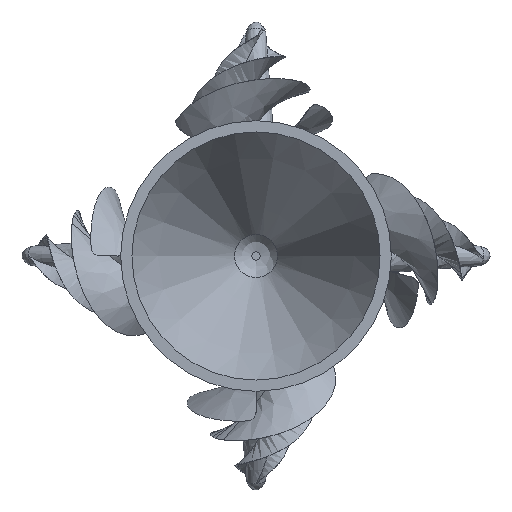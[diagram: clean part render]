
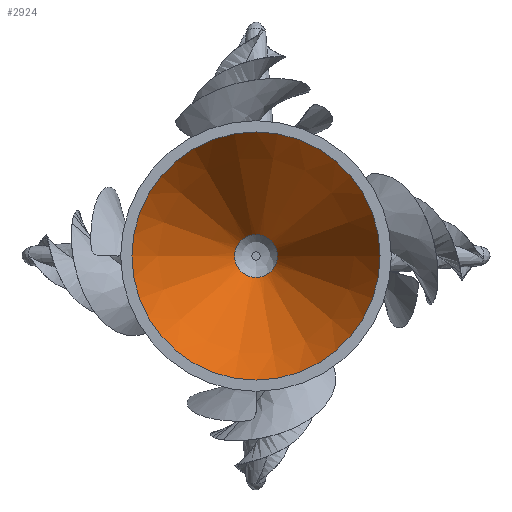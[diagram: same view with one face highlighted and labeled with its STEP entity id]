
A CAD part, front view. The second image highlights one B-rep face of the part: STEP entity #2924.
In plain terms, the highlighted conical face has half-angle 28.811 degrees and reference radius 23.995 mm.
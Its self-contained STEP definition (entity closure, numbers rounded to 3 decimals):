
#204=CONICAL_SURFACE('',#3193,23.995,0.503);
#271=LINE('',#4503,#437);
#437=VECTOR('',#3577,27.5);
#681=FACE_OUTER_BOUND('',#857,.T.);
#857=EDGE_LOOP('',(#2005,#2006,#2007,#2008,#2009));
#1051=CIRCLE('',#3190,8.714);
#1052=CIRCLE('',#3191,8.714);
#1053=CIRCLE('',#3194,50.435);
#1223=VERTEX_POINT('',#4495);
#1224=VERTEX_POINT('',#4497);
#1225=VERTEX_POINT('',#4502);
#1530=EDGE_CURVE('',#1223,#1224,#1051,.T.);
#1531=EDGE_CURVE('',#1224,#1223,#1052,.T.);
#1532=EDGE_CURVE('',#1224,#1225,#271,.T.);
#1533=EDGE_CURVE('',#1225,#1225,#1053,.T.);
#2005=ORIENTED_EDGE('',*,*,#1531,.F.);
#2006=ORIENTED_EDGE('',*,*,#1532,.T.);
#2007=ORIENTED_EDGE('',*,*,#1533,.F.);
#2008=ORIENTED_EDGE('',*,*,#1532,.F.);
#2009=ORIENTED_EDGE('',*,*,#1530,.F.);
#2924=ADVANCED_FACE('',(#681),#204,.F.);
#3190=AXIS2_PLACEMENT_3D('',#4498,#3569,#3570);
#3191=AXIS2_PLACEMENT_3D('',#4499,#3571,#3572);
#3193=AXIS2_PLACEMENT_3D('',#4501,#3575,#3576);
#3194=AXIS2_PLACEMENT_3D('',#4504,#3578,#3579);
#3569=DIRECTION('center_axis',(0.,-1.,0.));
#3570=DIRECTION('ref_axis',(1.,0.,0.));
#3571=DIRECTION('center_axis',(0.,-1.,0.));
#3572=DIRECTION('ref_axis',(1.,0.,0.));
#3575=DIRECTION('center_axis',(0.,-1.,0.));
#3576=DIRECTION('ref_axis',(1.,0.,0.));
#3577=DIRECTION('',(-0.482,-0.876,0.));
#3578=DIRECTION('center_axis',(0.,1.,0.));
#3579=DIRECTION('ref_axis',(1.,0.,0.));
#4495=CARTESIAN_POINT('',(0.,75.855,-8.714));
#4497=CARTESIAN_POINT('',(-8.714,75.855,0.));
#4498=CARTESIAN_POINT('Origin',(0.,75.855,0.));
#4499=CARTESIAN_POINT('Origin',(0.,75.855,0.));
#4501=CARTESIAN_POINT('Origin',(0.,48.072,0.));
#4502=CARTESIAN_POINT('',(-50.435,0.,0.));
#4503=CARTESIAN_POINT('',(-23.995,48.072,0.));
#4504=CARTESIAN_POINT('Origin',(0.,0.,0.));
